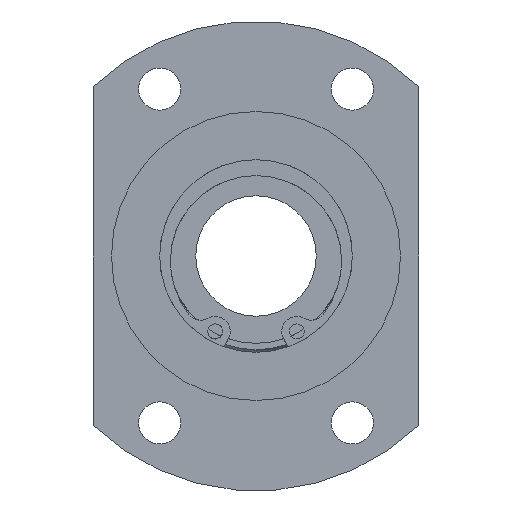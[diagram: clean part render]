
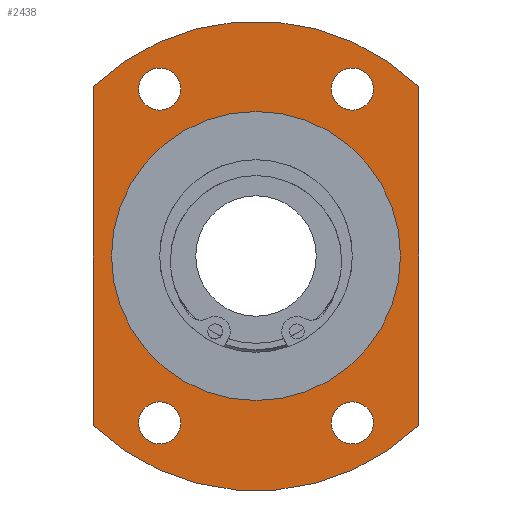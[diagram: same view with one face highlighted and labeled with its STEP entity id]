
A CAD part, left-side view. The second image highlights one B-rep face of the part: STEP entity #2438.
In plain terms, the highlighted planar face has unit normal (-1, 0, 0).
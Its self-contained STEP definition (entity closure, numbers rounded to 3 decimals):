
#2198=CARTESIAN_POINT('',(10.0,19.5,-27.713));
#2199=VERTEX_POINT('',#2198);
#2200=CARTESIAN_POINT('',(10.0,16.,-27.713));
#2201=DIRECTION('',(1.0,0.0,0.0));
#2202=DIRECTION('',(0.0,1.0,0.0));
#2203=AXIS2_PLACEMENT_3D('',#2200,#2201,#2202);
#2204=CIRCLE('',#2203,3.5);
#2205=EDGE_CURVE('',#2199,#2199,#2204,.T.);
#2226=CARTESIAN_POINT('',(10.0,-12.5,27.713));
#2227=VERTEX_POINT('',#2226);
#2228=CARTESIAN_POINT('',(10.0,-16.,27.713));
#2229=DIRECTION('',(1.0,0.0,0.0));
#2230=DIRECTION('',(0.0,1.0,0.0));
#2231=AXIS2_PLACEMENT_3D('',#2228,#2229,#2230);
#2232=CIRCLE('',#2231,3.5);
#2233=EDGE_CURVE('',#2227,#2227,#2232,.T.);
#2254=CARTESIAN_POINT('',(10.0,19.5,27.713));
#2255=VERTEX_POINT('',#2254);
#2256=CARTESIAN_POINT('',(10.0,16.,27.713));
#2257=DIRECTION('',(1.0,0.0,0.0));
#2258=DIRECTION('',(0.0,1.0,0.0));
#2259=AXIS2_PLACEMENT_3D('',#2256,#2257,#2258);
#2260=CIRCLE('',#2259,3.5);
#2261=EDGE_CURVE('',#2255,#2255,#2260,.T.);
#2282=CARTESIAN_POINT('',(10.0,-12.5,-27.713));
#2283=VERTEX_POINT('',#2282);
#2284=CARTESIAN_POINT('',(10.0,-16.,-27.713));
#2285=DIRECTION('',(1.0,0.0,0.0));
#2286=DIRECTION('',(0.0,1.0,0.0));
#2287=AXIS2_PLACEMENT_3D('',#2284,#2285,#2286);
#2288=CIRCLE('',#2287,3.5);
#2289=EDGE_CURVE('',#2283,#2283,#2288,.T.);
#2309=CARTESIAN_POINT('',(10.0,27.,-28.142));
#2310=VERTEX_POINT('',#2309);
#2317=CARTESIAN_POINT('',(10.0,27.,28.142));
#2318=VERTEX_POINT('',#2317);
#2319=CARTESIAN_POINT('',(10.0,27.,28.142));
#2320=DIRECTION('',(0.0,0.0,-1.0));
#2321=VECTOR('',#2320,56.285);
#2322=LINE('',#2319,#2321);
#2323=EDGE_CURVE('',#2318,#2310,#2322,.T.);
#2349=CARTESIAN_POINT('',(10.0,-27.,28.142));
#2350=VERTEX_POINT('',#2349);
#2357=CARTESIAN_POINT('',(10.0,-27.,-28.142));
#2358=VERTEX_POINT('',#2357);
#2359=CARTESIAN_POINT('',(10.0,-27.,-28.142));
#2360=DIRECTION('',(0.0,0.0,1.0));
#2361=VECTOR('',#2360,56.285);
#2362=LINE('',#2359,#2361);
#2363=EDGE_CURVE('',#2358,#2350,#2362,.T.);
#2388=CARTESIAN_POINT('',(10.,0.0,0.0));
#2389=DIRECTION('',(-1.0,0.0,0.0));
#2390=DIRECTION('',(0.0,0.0,1.0));
#2391=AXIS2_PLACEMENT_3D('',#2388,#2389,#2390);
#2392=CIRCLE('',#2391,39.0);
#2393=EDGE_CURVE('',#2310,#2358,#2392,.T.);
#2398=CARTESIAN_POINT('',(10.,0.0,31.5));
#2399=DIRECTION('',(-1.0,0.0,0.0));
#2400=DIRECTION('',(0.0,0.0,1.0));
#2401=AXIS2_PLACEMENT_3D('',#2398,#2399,#2400);
#2402=PLANE('',#2401);
#2403=ORIENTED_EDGE('',*,*,#2323,.T.);
#2404=ORIENTED_EDGE('',*,*,#2393,.T.);
#2405=ORIENTED_EDGE('',*,*,#2363,.T.);
#2406=CARTESIAN_POINT('',(10.,0.0,0.0));
#2407=DIRECTION('',(-1.0,0.0,0.0));
#2408=DIRECTION('',(0.0,0.0,1.0));
#2409=AXIS2_PLACEMENT_3D('',#2406,#2407,#2408);
#2410=CIRCLE('',#2409,39.0);
#2411=EDGE_CURVE('',#2350,#2318,#2410,.T.);
#2412=ORIENTED_EDGE('',*,*,#2411,.T.);
#2413=EDGE_LOOP('',(#2403,#2404,#2405,#2412));
#2414=FACE_OUTER_BOUND('',#2413,.T.);
#2415=ORIENTED_EDGE('',*,*,#2205,.T.);
#2416=EDGE_LOOP('',(#2415));
#2417=FACE_BOUND('',#2416,.T.);
#2418=ORIENTED_EDGE('',*,*,#2233,.T.);
#2419=EDGE_LOOP('',(#2418));
#2420=FACE_BOUND('',#2419,.T.);
#2421=ORIENTED_EDGE('',*,*,#2261,.T.);
#2422=EDGE_LOOP('',(#2421));
#2423=FACE_BOUND('',#2422,.T.);
#2424=ORIENTED_EDGE('',*,*,#2289,.T.);
#2425=EDGE_LOOP('',(#2424));
#2426=FACE_BOUND('',#2425,.T.);
#2427=CARTESIAN_POINT('',(10.0,0.0,24.));
#2428=VERTEX_POINT('',#2427);
#2429=CARTESIAN_POINT('',(10.0,0.0,0.0));
#2430=DIRECTION('',(-1.0,0.0,0.0));
#2431=DIRECTION('',(0.0,0.0,1.0));
#2432=AXIS2_PLACEMENT_3D('',#2429,#2430,#2431);
#2433=CIRCLE('',#2432,24.);
#2434=EDGE_CURVE('',#2428,#2428,#2433,.T.);
#2435=ORIENTED_EDGE('',*,*,#2434,.F.);
#2436=EDGE_LOOP('',(#2435));
#2437=FACE_BOUND('',#2436,.T.);
#2438=ADVANCED_FACE('',(#2414,#2417,#2420,#2423,#2426,#2437),#2402,.T.);
